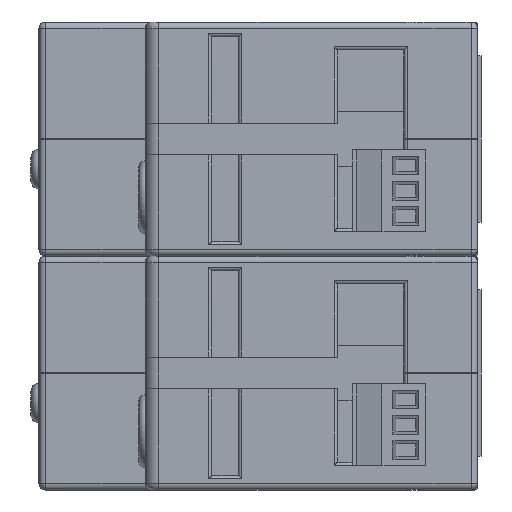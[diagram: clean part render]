
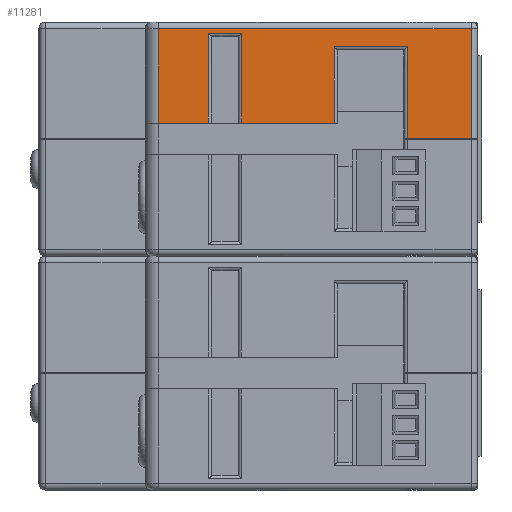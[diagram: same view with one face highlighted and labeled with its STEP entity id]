
A CAD part, left-side view. The second image highlights one B-rep face of the part: STEP entity #11281.
In plain terms, the highlighted planar face has unit normal (-1, 0, 0).
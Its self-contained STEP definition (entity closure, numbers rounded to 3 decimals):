
#94=FACE_BOUND('',#4088,.T.);
#483=LINE('',#16728,#1780);
#485=LINE('',#16734,#1782);
#488=LINE('',#16742,#1785);
#489=LINE('',#16744,#1786);
#490=LINE('',#16746,#1787);
#491=LINE('',#16748,#1788);
#492=LINE('',#16750,#1789);
#493=LINE('',#16751,#1790);
#494=LINE('',#16754,#1791);
#495=LINE('',#16756,#1792);
#496=LINE('',#16758,#1793);
#497=LINE('',#16759,#1794);
#1780=VECTOR('',#13366,10.);
#1782=VECTOR('',#13372,10.);
#1785=VECTOR('',#13381,10.);
#1786=VECTOR('',#13382,10.);
#1787=VECTOR('',#13383,10.);
#1788=VECTOR('',#13384,10.);
#1789=VECTOR('',#13385,10.);
#1790=VECTOR('',#13386,10.);
#1791=VECTOR('',#13387,10.);
#1792=VECTOR('',#13388,10.);
#1793=VECTOR('',#13389,10.);
#1794=VECTOR('',#13390,10.);
#2957=PLANE('',#12116);
#3442=FACE_OUTER_BOUND('',#4087,.T.);
#4087=EDGE_LOOP('',(#8086,#8087,#8088,#8089,#8090,#8091,#8092,#8093));
#4088=EDGE_LOOP('',(#8094,#8095,#8096,#8097));
#5194=VERTEX_POINT('',#16725);
#5195=VERTEX_POINT('',#16727);
#5197=VERTEX_POINT('',#16733);
#5199=VERTEX_POINT('',#16741);
#5200=VERTEX_POINT('',#16743);
#5201=VERTEX_POINT('',#16745);
#5202=VERTEX_POINT('',#16747);
#5203=VERTEX_POINT('',#16749);
#5204=VERTEX_POINT('',#16752);
#5205=VERTEX_POINT('',#16753);
#5206=VERTEX_POINT('',#16755);
#5207=VERTEX_POINT('',#16757);
#6315=EDGE_CURVE('',#5194,#5195,#483,.T.);
#6318=EDGE_CURVE('',#5197,#5195,#485,.T.);
#6323=EDGE_CURVE('',#5194,#5199,#488,.T.);
#6324=EDGE_CURVE('',#5199,#5200,#489,.T.);
#6325=EDGE_CURVE('',#5200,#5201,#490,.T.);
#6326=EDGE_CURVE('',#5202,#5201,#491,.T.);
#6327=EDGE_CURVE('',#5203,#5202,#492,.T.);
#6328=EDGE_CURVE('',#5197,#5203,#493,.T.);
#6329=EDGE_CURVE('',#5204,#5205,#494,.T.);
#6330=EDGE_CURVE('',#5206,#5204,#495,.T.);
#6331=EDGE_CURVE('',#5207,#5206,#496,.T.);
#6332=EDGE_CURVE('',#5205,#5207,#497,.T.);
#8086=ORIENTED_EDGE('',*,*,#6315,.F.);
#8087=ORIENTED_EDGE('',*,*,#6323,.T.);
#8088=ORIENTED_EDGE('',*,*,#6324,.T.);
#8089=ORIENTED_EDGE('',*,*,#6325,.T.);
#8090=ORIENTED_EDGE('',*,*,#6326,.F.);
#8091=ORIENTED_EDGE('',*,*,#6327,.F.);
#8092=ORIENTED_EDGE('',*,*,#6328,.F.);
#8093=ORIENTED_EDGE('',*,*,#6318,.T.);
#8094=ORIENTED_EDGE('',*,*,#6329,.F.);
#8095=ORIENTED_EDGE('',*,*,#6330,.F.);
#8096=ORIENTED_EDGE('',*,*,#6331,.F.);
#8097=ORIENTED_EDGE('',*,*,#6332,.F.);
#11281=ADVANCED_FACE('',(#3442,#94),#2957,.T.);
#12116=AXIS2_PLACEMENT_3D('',#16740,#13379,#13380);
#13366=DIRECTION('',(0.,0.,-1.));
#13372=DIRECTION('',(0.,-1.,0.));
#13379=DIRECTION('center_axis',(-1.,0.,0.));
#13380=DIRECTION('ref_axis',(0.,-1.,0.));
#13381=DIRECTION('',(0.,-1.,0.));
#13382=DIRECTION('',(0.,0.,-1.));
#13383=DIRECTION('',(0.,-1.,0.));
#13384=DIRECTION('',(0.,0.,-1.));
#13385=DIRECTION('',(0.,-1.,0.));
#13386=DIRECTION('',(0.,0.,1.));
#13387=DIRECTION('',(0.,-1.,0.));
#13388=DIRECTION('',(0.,0.,-1.));
#13389=DIRECTION('',(0.,1.,0.));
#13390=DIRECTION('',(0.,0.,1.));
#16725=CARTESIAN_POINT('',(0.,21.6,31.5));
#16727=CARTESIAN_POINT('',(0.,21.6,19.925));
#16728=CARTESIAN_POINT('',(0.,21.6,15.5));
#16733=CARTESIAN_POINT('',(0.,48.,19.925));
#16734=CARTESIAN_POINT('',(0.,35.8,19.925));
#16740=CARTESIAN_POINT('Origin',(0.,50.,0.));
#16741=CARTESIAN_POINT('',(0.,10.6,31.5));
#16742=CARTESIAN_POINT('',(0.,30.55,31.5));
#16743=CARTESIAN_POINT('',(0.,10.6,17.625));
#16744=CARTESIAN_POINT('',(0.,10.6,10.85));
#16745=CARTESIAN_POINT('',(0.,1.,17.625));
#16746=CARTESIAN_POINT('',(0.,41.725,17.625));
#16747=CARTESIAN_POINT('',(0.,1.,34.2));
#16748=CARTESIAN_POINT('',(0.,1.,0.));
#16749=CARTESIAN_POINT('',(0.,48.,34.2));
#16750=CARTESIAN_POINT('',(0.,40.001,34.2));
#16751=CARTESIAN_POINT('',(0.,48.,0.));
#16752=CARTESIAN_POINT('',(0.,40.5,20.));
#16753=CARTESIAN_POINT('',(0.,35.5,20.));
#16754=CARTESIAN_POINT('',(0.,45.,20.));
#16755=CARTESIAN_POINT('',(0.,40.5,33.5));
#16756=CARTESIAN_POINT('',(0.,40.5,16.5));
#16757=CARTESIAN_POINT('',(0.,35.5,33.5));
#16758=CARTESIAN_POINT('',(0.,43.,33.5));
#16759=CARTESIAN_POINT('',(0.,35.5,10.));
